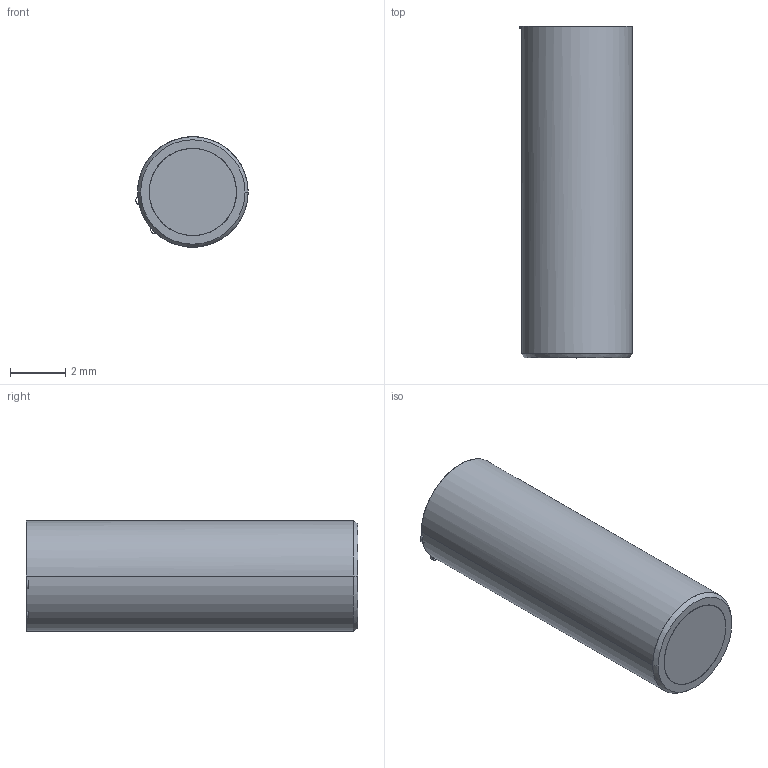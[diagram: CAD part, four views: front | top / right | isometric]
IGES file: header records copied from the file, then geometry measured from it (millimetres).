
Start section: START RECORD GO HERE.
Global section: file name: fa042212-21.igs; native system: DASSAULT SYSTEMES CATIA V5 R20 - www.3ds.com; preprocessor: CATIA Version 5 Release 20 ; author: Utente; organization: NB04-ASUS; date: 20201108.084005; units: millimetre
Bounding box: 4.06 x 12 x 4 mm (x, y, z)
Surface area: 464.4 mm2 (no closed solid volume)
Topology: 0 solids, 0 shells, 374 faces, 1842 edges, 1836 vertices
Faces by surface type: revolution 167, plane 134, bspline 73
